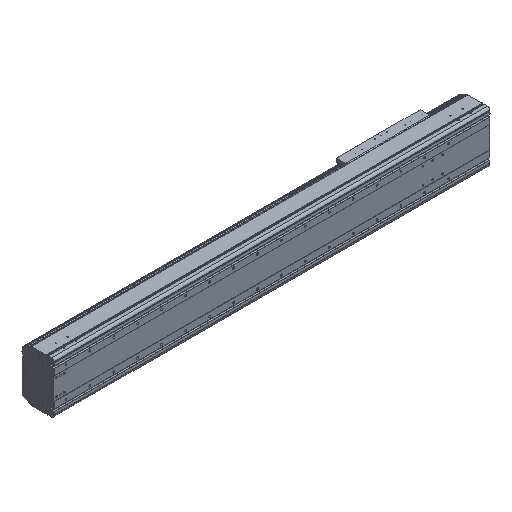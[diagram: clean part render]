
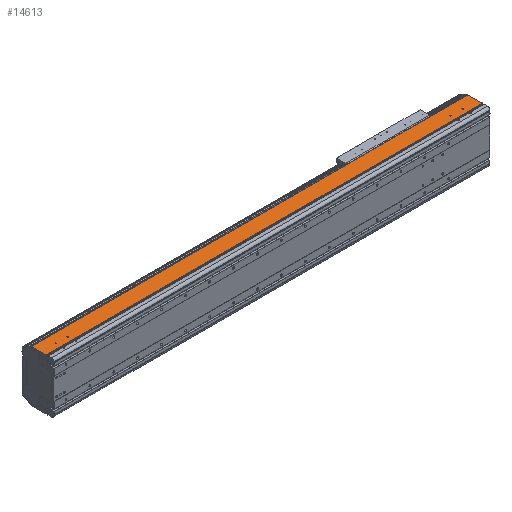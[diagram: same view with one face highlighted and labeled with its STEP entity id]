
A CAD part, isometric view. The second image highlights one B-rep face of the part: STEP entity #14613.
In plain terms, the highlighted planar face has unit normal (0, 0, 1).
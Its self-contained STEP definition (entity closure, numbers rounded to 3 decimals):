
#518=DIRECTION('',(0.,-1.,0.));
#519=VECTOR('',#518,2.55);
#520=CARTESIAN_POINT('',(0.,34.65,107.));
#521=LINE('',#520,#519);
#2167=DIRECTION('',(1.,0.,0.));
#2168=VECTOR('',#2167,2.);
#2169=CARTESIAN_POINT('',(0.,34.65,107.));
#2170=LINE('',#2169,#2168);
#2175=CARTESIAN_POINT('',(-59.5,54.,107.));
#2176=DIRECTION('',(0.,0.,-1.));
#2177=DIRECTION('',(1.,0.,0.));
#2178=AXIS2_PLACEMENT_3D('',#2175,#2176,#2177);
#2180=CARTESIAN_POINT('',(-59.5,54.,107.));
#2181=DIRECTION('',(0.,0.,-1.));
#2182=DIRECTION('',(-1.,0.,0.));
#2183=AXIS2_PLACEMENT_3D('',#2180,#2181,#2182);
#2185=CARTESIAN_POINT('',(-109.5,54.,107.));
#2186=DIRECTION('',(0.,0.,-1.));
#2187=DIRECTION('',(1.,0.,0.));
#2188=AXIS2_PLACEMENT_3D('',#2185,#2186,#2187);
#2190=CARTESIAN_POINT('',(-109.5,54.,107.));
#2191=DIRECTION('',(0.,0.,-1.));
#2192=DIRECTION('',(-1.,0.,0.));
#2193=AXIS2_PLACEMENT_3D('',#2190,#2191,#2192);
#2195=CARTESIAN_POINT('',(-1759.5,54.,107.));
#2196=DIRECTION('',(0.,0.,-1.));
#2197=DIRECTION('',(1.,0.,0.));
#2198=AXIS2_PLACEMENT_3D('',#2195,#2196,#2197);
#2200=CARTESIAN_POINT('',(-1759.5,54.,107.));
#2201=DIRECTION('',(0.,0.,-1.));
#2202=DIRECTION('',(-1.,0.,0.));
#2203=AXIS2_PLACEMENT_3D('',#2200,#2201,#2202);
#2205=CARTESIAN_POINT('',(-1709.5,54.,107.));
#2206=DIRECTION('',(0.,0.,-1.));
#2207=DIRECTION('',(1.,0.,0.));
#2208=AXIS2_PLACEMENT_3D('',#2205,#2206,#2207);
#2210=CARTESIAN_POINT('',(-1709.5,54.,107.));
#2211=DIRECTION('',(0.,0.,-1.));
#2212=DIRECTION('',(-1.,0.,0.));
#2213=AXIS2_PLACEMENT_3D('',#2210,#2211,#2212);
#2215=DIRECTION('',(0.,-1.,0.));
#2216=VECTOR('',#2215,2.55);
#2217=CARTESIAN_POINT('',(-1819.,34.65,107.));
#2218=LINE('',#2217,#2216);
#2219=DIRECTION('',(0.,-1.,0.));
#2220=VECTOR('',#2219,58.85);
#2221=CARTESIAN_POINT('',(-1821.,93.5,107.));
#2222=LINE('',#2221,#2220);
#2223=DIRECTION('',(0.,1.,0.));
#2224=VECTOR('',#2223,58.85);
#2225=CARTESIAN_POINT('',(2.,34.65,107.));
#2226=LINE('',#2225,#2224);
#2227=DIRECTION('',(1.,0.,0.));
#2228=VECTOR('',#2227,1819.);
#2229=CARTESIAN_POINT('',(-1819.,32.1,107.));
#2230=LINE('',#2229,#2228);
#2339=DIRECTION('',(1.,0.,0.));
#2340=VECTOR('',#2339,2.);
#2341=CARTESIAN_POINT('',(-1821.,34.65,107.));
#2342=LINE('',#2341,#2340);
#2351=DIRECTION('',(-1.,0.,0.));
#2352=VECTOR('',#2351,1823.);
#2353=CARTESIAN_POINT('',(2.,93.5,107.));
#2354=LINE('',#2353,#2352);
#9289=CARTESIAN_POINT('',(-1821.,34.65,107.));
#9290=VERTEX_POINT('',#9289);
#9291=CARTESIAN_POINT('',(-1821.,93.5,107.));
#9292=VERTEX_POINT('',#9291);
#9521=CARTESIAN_POINT('',(-1819.,32.1,107.));
#9522=VERTEX_POINT('',#9521);
#9853=CARTESIAN_POINT('',(0.,32.1,107.));
#9854=VERTEX_POINT('',#9853);
#9855=CARTESIAN_POINT('',(-57.,54.,107.));
#9856=CARTESIAN_POINT('',(-62.,54.,107.));
#9857=VERTEX_POINT('',#9855);
#9858=VERTEX_POINT('',#9856);
#9859=CARTESIAN_POINT('',(-107.,54.,107.));
#9860=CARTESIAN_POINT('',(-112.,54.,107.));
#9861=VERTEX_POINT('',#9859);
#9862=VERTEX_POINT('',#9860);
#9863=CARTESIAN_POINT('',(-1757.,54.,107.));
#9864=CARTESIAN_POINT('',(-1762.,54.,107.));
#9865=VERTEX_POINT('',#9863);
#9866=VERTEX_POINT('',#9864);
#9867=CARTESIAN_POINT('',(-1707.,54.,107.));
#9868=CARTESIAN_POINT('',(-1712.,54.,107.));
#9869=VERTEX_POINT('',#9867);
#9870=VERTEX_POINT('',#9868);
#10738=CARTESIAN_POINT('',(2.,34.65,107.));
#10739=VERTEX_POINT('',#10738);
#10740=CARTESIAN_POINT('',(2.,93.5,107.));
#10741=VERTEX_POINT('',#10740);
#11192=CARTESIAN_POINT('',(0.,34.65,107.));
#11193=VERTEX_POINT('',#11192);
#11272=CARTESIAN_POINT('',(-1819.,34.65,107.));
#11273=VERTEX_POINT('',#11272);
#14571=CARTESIAN_POINT('',(-909.5,62.8,107.));
#14572=DIRECTION('',(0.,0.,1.));
#14573=DIRECTION('',(0.,-1.,0.));
#14574=AXIS2_PLACEMENT_3D('',#14571,#14572,#14573);
#14575=PLANE('',#14574);
#14576=ORIENTED_EDGE('',*,*,#12072,.F.);
#14578=ORIENTED_EDGE('',*,*,#14577,.F.);
#14579=ORIENTED_EDGE('',*,*,#13169,.F.);
#14581=ORIENTED_EDGE('',*,*,#14580,.F.);
#14582=ORIENTED_EDGE('',*,*,#14369,.F.);
#14583=ORIENTED_EDGE('',*,*,#14564,.F.);
#14584=ORIENTED_EDGE('',*,*,#12687,.T.);
#14586=ORIENTED_EDGE('',*,*,#14585,.F.);
#14587=EDGE_LOOP('',(#14576,#14578,#14579,#14581,#14582,#14583,#14584,#14586));
#14588=FACE_OUTER_BOUND('',#14587,.F.);
#14590=ORIENTED_EDGE('',*,*,#14589,.F.);
#14592=ORIENTED_EDGE('',*,*,#14591,.F.);
#14593=EDGE_LOOP('',(#14590,#14592));
#14594=FACE_BOUND('',#14593,.F.);
#14596=ORIENTED_EDGE('',*,*,#14595,.F.);
#14598=ORIENTED_EDGE('',*,*,#14597,.F.);
#14599=EDGE_LOOP('',(#14596,#14598));
#14600=FACE_BOUND('',#14599,.F.);
#14602=ORIENTED_EDGE('',*,*,#14601,.F.);
#14604=ORIENTED_EDGE('',*,*,#14603,.F.);
#14605=EDGE_LOOP('',(#14602,#14604));
#14606=FACE_BOUND('',#14605,.F.);
#14608=ORIENTED_EDGE('',*,*,#14607,.F.);
#14610=ORIENTED_EDGE('',*,*,#14609,.F.);
#14611=EDGE_LOOP('',(#14608,#14610));
#14612=FACE_BOUND('',#14611,.F.);
#14613=ADVANCED_FACE('',(#14588,#14594,#14600,#14606,#14612),#14575,.T.);
#2179=CIRCLE('',#2178,2.5);
#2184=CIRCLE('',#2183,2.5);
#2189=CIRCLE('',#2188,2.5);
#2194=CIRCLE('',#2193,2.5);
#2199=CIRCLE('',#2198,2.5);
#2204=CIRCLE('',#2203,2.5);
#2209=CIRCLE('',#2208,2.5);
#2214=CIRCLE('',#2213,2.5);
#12072=EDGE_CURVE('',#11273,#9522,#2218,.T.);
#12687=EDGE_CURVE('',#11193,#9854,#521,.T.);
#13169=EDGE_CURVE('',#9292,#9290,#2222,.T.);
#14369=EDGE_CURVE('',#10739,#10741,#2226,.T.);
#14564=EDGE_CURVE('',#11193,#10739,#2170,.T.);
#14577=EDGE_CURVE('',#9290,#11273,#2342,.T.);
#14580=EDGE_CURVE('',#10741,#9292,#2354,.T.);
#14585=EDGE_CURVE('',#9522,#9854,#2230,.T.);
#14589=EDGE_CURVE('',#9861,#9862,#2189,.T.);
#14591=EDGE_CURVE('',#9862,#9861,#2194,.T.);
#14595=EDGE_CURVE('',#9865,#9866,#2199,.T.);
#14597=EDGE_CURVE('',#9866,#9865,#2204,.T.);
#14601=EDGE_CURVE('',#9869,#9870,#2209,.T.);
#14603=EDGE_CURVE('',#9870,#9869,#2214,.T.);
#14607=EDGE_CURVE('',#9857,#9858,#2179,.T.);
#14609=EDGE_CURVE('',#9858,#9857,#2184,.T.);
